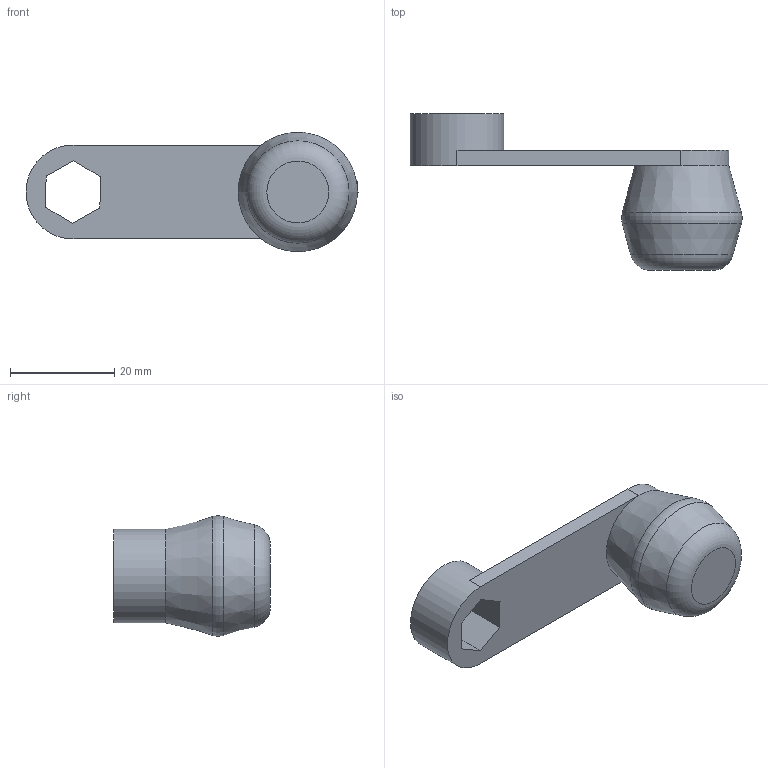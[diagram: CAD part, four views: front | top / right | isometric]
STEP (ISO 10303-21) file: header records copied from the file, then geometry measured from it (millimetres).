
FILE_DESCRIPTION(('STEP AP242'), '1');
FILE_NAME('Ðó÷êà', '', ('UNSPECIFIED'), ('UNSPECIFIED'), 'C3D Converter', 'C3D Toolkit', '');
FILE_SCHEMA(('AP242_MANAGED_MODEL_BASED_3D_ENGINEERING_MIM_LF { 1 0 10303 442 1 1 4 }'));
Length unit declared in the file: millimetre
Bounding box: 63.58 x 30 x 23.05 mm (x, y, z)
Volume: 10587.8 mm3; surface area: 4341.2 mm2
Topology: 1 solids, 1 shells, 18 faces, 43 edges, 27 vertices
Faces by surface type: plane 12, cone 2, cylinder 2, torus 2
Full cylindrical faces by diameter (mm): 18 x1
Entity records: 538 total; most frequent: DIRECTION 88, CARTESIAN_POINT 84, ORIENTED_EDGE 76, EDGE_CURVE 38, AXIS2_PLACEMENT_3D 31, VERTEX_POINT 27, LINE 26, VECTOR 26
